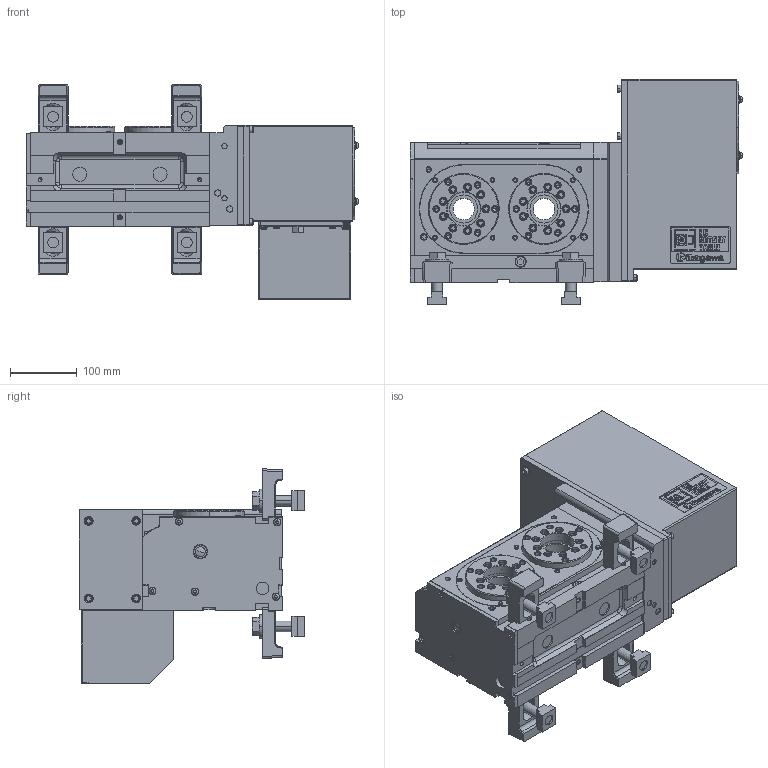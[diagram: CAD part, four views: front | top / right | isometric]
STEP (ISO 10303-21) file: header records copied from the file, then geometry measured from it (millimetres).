
FILE_DESCRIPTION (( 'STEP AP214' ), '1' );
FILE_NAME ('【掲載用】TM2100AF.STEP', '2020-01-06T07:46:17', ( '' ), ( '' ), 'SwSTEP 2.0', 'SolidWorks 2017', '' );
FILE_SCHEMA (( 'AUTOMOTIVE_DESIGN' ));
Length unit declared in the file: millimetre
Products named in the file (15): 僇僶乕丂俹(61E4458433)MR250RAM01; モータケース(61E2743600)TM3100AF10; フランジ(61E8110960)TM2100AF04; TM2100A00クミタテ; オイルゲージ 207; テーブル（61E359627）; 僊儎儃僢僋僗PAD(61E2649880)TM2100A00; 儂儞僞僀ASSY(61E1130172)TM2100A00; 【掲載用】TM2100AF; CLAMPING PARTS(61E424758)結合; TM2100AF03儂儞僞僀; キタガワシール; KQ2E06-01; コネクタカバー（61E3639910）; コネクタプレート(61E4528061)MR200RAF21
Assembly tree (18 placements, depth 4):
  【掲載用】TM2100AF
    TM2100AF03儂儞僞僀
      TM2100A00クミタテ
        儂儞僞僀ASSY(61E1130172)TM2100A00
        僊儎儃僢僋僗PAD(61E2649880)TM2100A00
        テーブル（61E359627）  x2
        オイルゲージ 207
      フランジ(61E8110960)TM2100AF04
      モータケース(61E2743600)TM3100AF10
      僇僶乕丂俹(61E4458433)MR250RAM01
      コネクタプレート(61E4528061)MR200RAF21
      コネクタカバー（61E3639910）
      KQ2E06-01
      キタガワシール
    CLAMPING PARTS(61E424758)結合  x4
Bounding box: 496.7 x 337 x 321 mm (x, y, z)
Volume: 16268254 mm3; surface area: 1099181 mm2
Topology: 16 solids, 16 shells, 3247 faces, 8394 edges, 5470 vertices
Faces by surface type: plane 2286, cylinder 666, cone 212, torus 64, bspline 15, sphere 4
Entity records: 99471 total; most frequent: CARTESIAN_POINT 15671, ORIENTED_EDGE 15014, DIRECTION 14628, EDGE_CURVE 7507, VECTOR 6114, LINE 6114, VERTEX_POINT 4942, AXIS2_PLACEMENT_3D 4257
